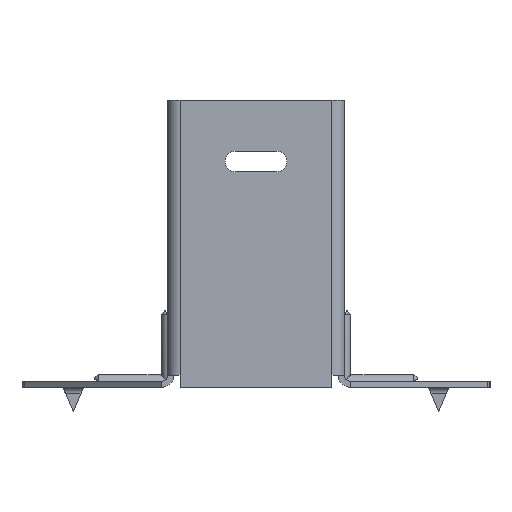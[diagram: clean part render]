
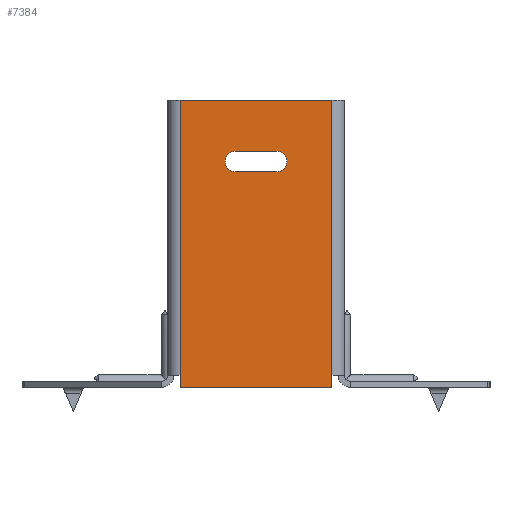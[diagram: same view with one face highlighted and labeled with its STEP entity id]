
A CAD part, front view. The second image highlights one B-rep face of the part: STEP entity #7384.
In plain terms, the highlighted planar face has unit normal (0, -1, 0).
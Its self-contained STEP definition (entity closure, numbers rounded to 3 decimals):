
#375 = EDGE_LOOP ( 'NONE', ( #15826, #5682, #451, #6032, #15852, #9805 ) ) ;
#451 = ORIENTED_EDGE ( 'NONE', *, *, #8804, .F. ) ;
#603 = CARTESIAN_POINT ( 'NONE',  ( 18.5, 0., -70. ) ) ;
#1041 = CARTESIAN_POINT ( 'NONE',  ( 5., 0., -15. ) ) ;
#1080 = DIRECTION ( 'NONE',  ( 0., 1., 0. ) ) ;
#1148 = VECTOR ( 'NONE', #2846, 1000. ) ;
#1192 = DIRECTION ( 'NONE',  ( 0., 1., 0. ) ) ;
#1506 = CARTESIAN_POINT ( 'NONE',  ( -18.5, 0., -70. ) ) ;
#1898 = CARTESIAN_POINT ( 'NONE',  ( 18.5, 0., 0. ) ) ;
#1938 = CARTESIAN_POINT ( 'NONE',  ( -5., 0., -17.5 ) ) ;
#2148 = LINE ( 'NONE', #8763, #6742 ) ;
#2339 = EDGE_CURVE ( 'NONE', #13805, #8097, #10189, .T. ) ;
#2564 = FACE_BOUND ( 'NONE', #14759, .T. ) ;
#2795 = CARTESIAN_POINT ( 'NONE',  ( 5., 0., -17.5 ) ) ;
#2846 = DIRECTION ( 'NONE',  ( 0., 0., 1. ) ) ;
#3280 = EDGE_CURVE ( 'NONE', #12967, #7472, #7072, .T. ) ;
#4060 = VERTEX_POINT ( 'NONE', #1506 ) ;
#4223 = AXIS2_PLACEMENT_3D ( 'NONE', #9401, #10752, #13236 ) ;
#4327 = DIRECTION ( 'NONE',  ( -1., 0., 0. ) ) ;
#4503 = ORIENTED_EDGE ( 'NONE', *, *, #3280, .T. ) ;
#4897 = CARTESIAN_POINT ( 'NONE',  ( -18.5, 0., 0. ) ) ;
#5092 = VERTEX_POINT ( 'NONE', #2795 ) ;
#5563 = CARTESIAN_POINT ( 'NONE',  ( -20., 0., -70. ) ) ;
#5682 = ORIENTED_EDGE ( 'NONE', *, *, #9744, .T. ) ;
#5730 = EDGE_CURVE ( 'NONE', #8695, #8097, #9933, .T. ) ;
#5816 = CARTESIAN_POINT ( 'NONE',  ( -5., 0., -17.5 ) ) ;
#6032 = ORIENTED_EDGE ( 'NONE', *, *, #8620, .T. ) ;
#6742 = VECTOR ( 'NONE', #11359, 1000. ) ;
#6755 = VECTOR ( 'NONE', #7883, 1000. ) ;
#6908 = DIRECTION ( 'NONE',  ( -1., 0., 0. ) ) ;
#7072 = LINE ( 'NONE', #7393, #13656 ) ;
#7124 = CARTESIAN_POINT ( 'NONE',  ( -20., 0., 0. ) ) ;
#7384 = ADVANCED_FACE ( 'NONE', ( #2564, #11437 ), #15881, .F. ) ;
#7393 = CARTESIAN_POINT ( 'NONE',  ( -5., 0., -12.5 ) ) ;
#7472 = VERTEX_POINT ( 'NONE', #14836 ) ;
#7883 = DIRECTION ( 'NONE',  ( 0., 0., 1. ) ) ;
#8097 = VERTEX_POINT ( 'NONE', #1898 ) ;
#8620 = EDGE_CURVE ( 'NONE', #13505, #13805, #12756, .T. ) ;
#8695 = VERTEX_POINT ( 'NONE', #13173 ) ;
#8763 = CARTESIAN_POINT ( 'NONE',  ( -18.5, 0., 0. ) ) ;
#8804 = EDGE_CURVE ( 'NONE', #13505, #4060, #14106, .T. ) ;
#8866 = CARTESIAN_POINT ( 'NONE',  ( -5., 0., -12.5 ) ) ;
#9401 = CARTESIAN_POINT ( 'NONE',  ( -5., 0., -15. ) ) ;
#9744 = EDGE_CURVE ( 'NONE', #12379, #4060, #2148, .T. ) ;
#9805 = ORIENTED_EDGE ( 'NONE', *, *, #5730, .F. ) ;
#9933 = LINE ( 'NONE', #7124, #11664 ) ;
#10189 = LINE ( 'NONE', #13977, #1148 ) ;
#10216 = ORIENTED_EDGE ( 'NONE', *, *, #13217, .T. ) ;
#10752 = DIRECTION ( 'NONE',  ( 0., 1., 0. ) ) ;
#10805 = CARTESIAN_POINT ( 'NONE',  ( 0., 0., 0. ) ) ;
#10965 = DIRECTION ( 'NONE',  ( 0., 0., 1. ) ) ;
#11359 = DIRECTION ( 'NONE',  ( 0., 0., -1. ) ) ;
#11437 = FACE_OUTER_BOUND ( 'NONE', #375, .T. ) ;
#11482 = VECTOR ( 'NONE', #4327, 1000. ) ;
#11649 = CARTESIAN_POINT ( 'NONE',  ( -18.5, 0., -67. ) ) ;
#11664 = VECTOR ( 'NONE', #12088, 1000. ) ;
#11971 = ORIENTED_EDGE ( 'NONE', *, *, #13586, .T. ) ;
#12088 = DIRECTION ( 'NONE',  ( 1., 0., 0. ) ) ;
#12379 = VERTEX_POINT ( 'NONE', #11649 ) ;
#12402 = VECTOR ( 'NONE', #14733, 1000. ) ;
#12461 = CIRCLE ( 'NONE', #14056, 2.5 ) ;
#12521 = DIRECTION ( 'NONE',  ( 1., 0., 0. ) ) ;
#12652 = CARTESIAN_POINT ( 'NONE',  ( 18.5, 0., -70. ) ) ;
#12756 = LINE ( 'NONE', #603, #6755 ) ;
#12967 = VERTEX_POINT ( 'NONE', #8866 ) ;
#13173 = CARTESIAN_POINT ( 'NONE',  ( -18.5, 0., 0. ) ) ;
#13179 = CARTESIAN_POINT ( 'NONE',  ( 18.5, 0., -67. ) ) ;
#13217 = EDGE_CURVE ( 'NONE', #7472, #5092, #12461, .T. ) ;
#13231 = LINE ( 'NONE', #1938, #11482 ) ;
#13236 = DIRECTION ( 'NONE',  ( 0., 0., 1. ) ) ;
#13505 = VERTEX_POINT ( 'NONE', #12652 ) ;
#13528 = DIRECTION ( 'NONE',  ( 0., 0., 1. ) ) ;
#13586 = EDGE_CURVE ( 'NONE', #5092, #15569, #13231, .T. ) ;
#13656 = VECTOR ( 'NONE', #12521, 1000. ) ;
#13805 = VERTEX_POINT ( 'NONE', #13179 ) ;
#13821 = EDGE_CURVE ( 'NONE', #15569, #12967, #14956, .T. ) ;
#13911 = VECTOR ( 'NONE', #6908, 1000. ) ;
#13977 = CARTESIAN_POINT ( 'NONE',  ( 18.5, 0., -70. ) ) ;
#14056 = AXIS2_PLACEMENT_3D ( 'NONE', #1041, #1192, #13528 ) ;
#14106 = LINE ( 'NONE', #5563, #13911 ) ;
#14544 = LINE ( 'NONE', #4897, #12402 ) ;
#14733 = DIRECTION ( 'NONE',  ( 0., 0., -1. ) ) ;
#14759 = EDGE_LOOP ( 'NONE', ( #11971, #15917, #4503, #10216 ) ) ;
#14836 = CARTESIAN_POINT ( 'NONE',  ( 5., 0., -12.5 ) ) ;
#14956 = CIRCLE ( 'NONE', #4223, 2.5 ) ;
#15085 = EDGE_CURVE ( 'NONE', #8695, #12379, #14544, .T. ) ;
#15569 = VERTEX_POINT ( 'NONE', #5816 ) ;
#15595 = AXIS2_PLACEMENT_3D ( 'NONE', #10805, #1080, #10965 ) ;
#15826 = ORIENTED_EDGE ( 'NONE', *, *, #15085, .T. ) ;
#15852 = ORIENTED_EDGE ( 'NONE', *, *, #2339, .T. ) ;
#15881 = PLANE ( 'NONE',  #15595 ) ;
#15917 = ORIENTED_EDGE ( 'NONE', *, *, #13821, .T. ) ;
